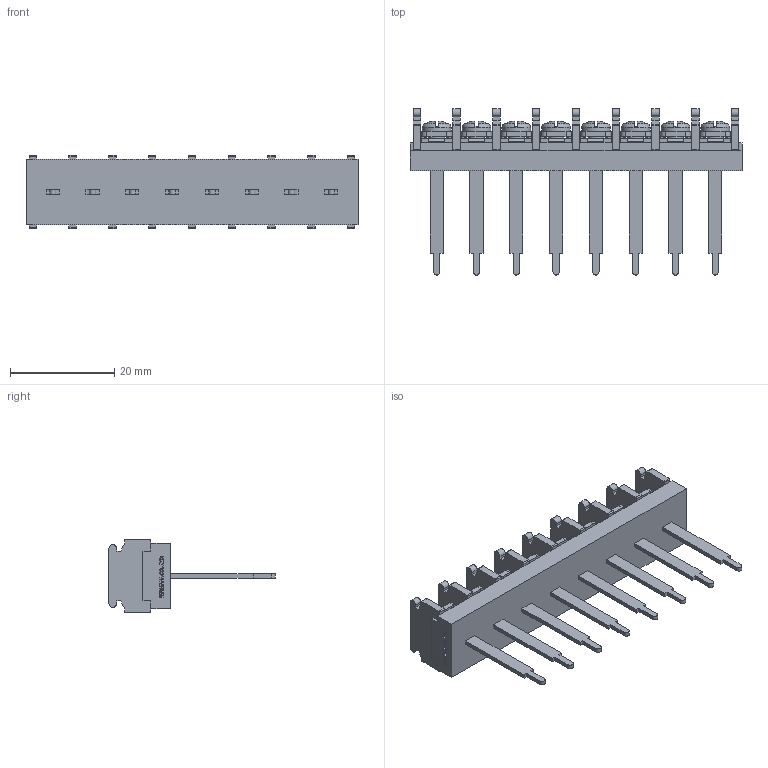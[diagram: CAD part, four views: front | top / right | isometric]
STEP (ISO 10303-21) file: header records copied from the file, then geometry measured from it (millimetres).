
FILE_DESCRIPTION(/* description */ ('Alibre Inc.'),/* implementation_level */ '2;1');
FILE_NAME(/* name */ 'export0',/* time_stamp */ '2015-10-26T16:07:39+09:00',/* author */ (''),/* organization */ (''),/* preprocessor_version */ 'ST-DEVELOPER v14',/* originating_system */ 'Alibre',/* authorisation */ '');
FILE_SCHEMA (('CONFIG_CONTROL_DESIGN'));
Length unit declared in the file: centimetre
Products named in the file (1): ID_1
Bounding box: 63.58 x 31.8 x 14 mm (x, y, z)
Volume: 6273.1 mm3; surface area: 6599.7 mm2
Topology: 1 solids, 1 shells, 1330 faces, 3652 edges, 2396 vertices
Faces by surface type: plane 1036, cylinder 126, bspline 104, cone 32, torus 16, sphere 16
Full cylindrical faces by diameter (mm): 3 x8, 5.5 x8
Entity records: 39997 total; most frequent: CARTESIAN_POINT 8539, ORIENTED_EDGE 7208, DIRECTION 4994, EDGE_CURVE 3604, VECTOR 2648, LINE 2648, VERTEX_POINT 2380, AXIS2_PLACEMENT_3D 1655
